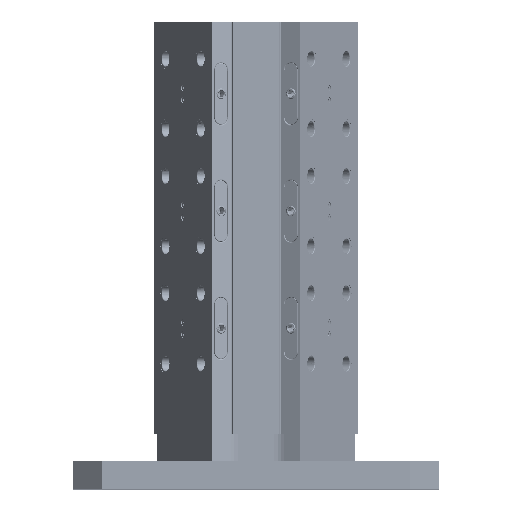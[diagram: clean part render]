
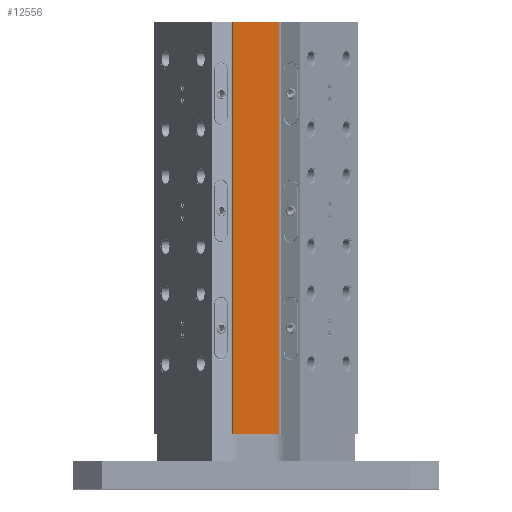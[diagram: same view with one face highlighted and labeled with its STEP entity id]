
A CAD part, top view. The second image highlights one B-rep face of the part: STEP entity #12556.
In plain terms, the highlighted planar face has unit normal (0, 0, 1).
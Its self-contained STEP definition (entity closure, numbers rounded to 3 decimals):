
#86 = LINE ( 'NONE', #18640, #28864 ) ;
#677 = DIRECTION ( 'NONE',  ( -1., 0., 0. ) ) ;
#744 = DIRECTION ( 'NONE',  ( 1., 0., 0. ) ) ;
#745 = ORIENTED_EDGE ( 'NONE', *, *, #27293, .F. ) ;
#4881 = VERTEX_POINT ( 'NONE', #30758 ) ;
#5716 = VECTOR ( 'NONE', #22991, 1000. ) ;
#8251 = LINE ( 'NONE', #36262, #13067 ) ;
#8657 = DIRECTION ( 'NONE',  ( 0., 1., 0. ) ) ;
#10618 = EDGE_CURVE ( 'NONE', #17476, #4881, #14171, .T. ) ;
#11205 = AXIS2_PLACEMENT_3D ( 'NONE', #13277, #34609, #744 ) ;
#12496 = ORIENTED_EDGE ( 'NONE', *, *, #10618, .F. ) ;
#12556 = ADVANCED_FACE ( 'NONE', ( #16297 ), #34418, .T. ) ;
#13031 = CARTESIAN_POINT ( 'NONE',  ( -31.293, -69.258, 111.8 ) ) ;
#13067 = VECTOR ( 'NONE', #8657, 1000. ) ;
#13277 = CARTESIAN_POINT ( 'NONE',  ( -31.293, -69.258, 111.8 ) ) ;
#14171 = LINE ( 'NONE', #13031, #5716 ) ;
#14228 = CARTESIAN_POINT ( 'NONE',  ( 31.293, 38.1, 111.8 ) ) ;
#15618 = EDGE_LOOP ( 'NONE', ( #12496, #745, #26130, #30220 ) ) ;
#16297 = FACE_OUTER_BOUND ( 'NONE', #15618, .T. ) ;
#16493 = EDGE_CURVE ( 'NONE', #17648, #38192, #8251, .T. ) ;
#17476 = VERTEX_POINT ( 'NONE', #20658 ) ;
#17648 = VERTEX_POINT ( 'NONE', #14228 ) ;
#18640 = CARTESIAN_POINT ( 'NONE',  ( 31.293, 38.1, 111.8 ) ) ;
#19174 = DIRECTION ( 'NONE',  ( 1., 0., 0. ) ) ;
#20658 = CARTESIAN_POINT ( 'NONE',  ( -31.293, 38.1, 111.8 ) ) ;
#22991 = DIRECTION ( 'NONE',  ( 0., 1., 0. ) ) ;
#26130 = ORIENTED_EDGE ( 'NONE', *, *, #16493, .T. ) ;
#27293 = EDGE_CURVE ( 'NONE', #17648, #17476, #86, .T. ) ;
#28029 = LINE ( 'NONE', #37324, #39314 ) ;
#28529 = EDGE_CURVE ( 'NONE', #4881, #38192, #28029, .T. ) ;
#28864 = VECTOR ( 'NONE', #677, 1000. ) ;
#30220 = ORIENTED_EDGE ( 'NONE', *, *, #28529, .F. ) ;
#30758 = CARTESIAN_POINT ( 'NONE',  ( -31.293, 600., 111.8 ) ) ;
#31486 = CARTESIAN_POINT ( 'NONE',  ( 31.293, 600., 111.8 ) ) ;
#34418 = PLANE ( 'NONE',  #11205 ) ;
#34609 = DIRECTION ( 'NONE',  ( 0., 0., 1. ) ) ;
#36262 = CARTESIAN_POINT ( 'NONE',  ( 31.293, -69.258, 111.8 ) ) ;
#37324 = CARTESIAN_POINT ( 'NONE',  ( -31.293, 600., 111.8 ) ) ;
#38192 = VERTEX_POINT ( 'NONE', #31486 ) ;
#39314 = VECTOR ( 'NONE', #19174, 1000. ) ;
